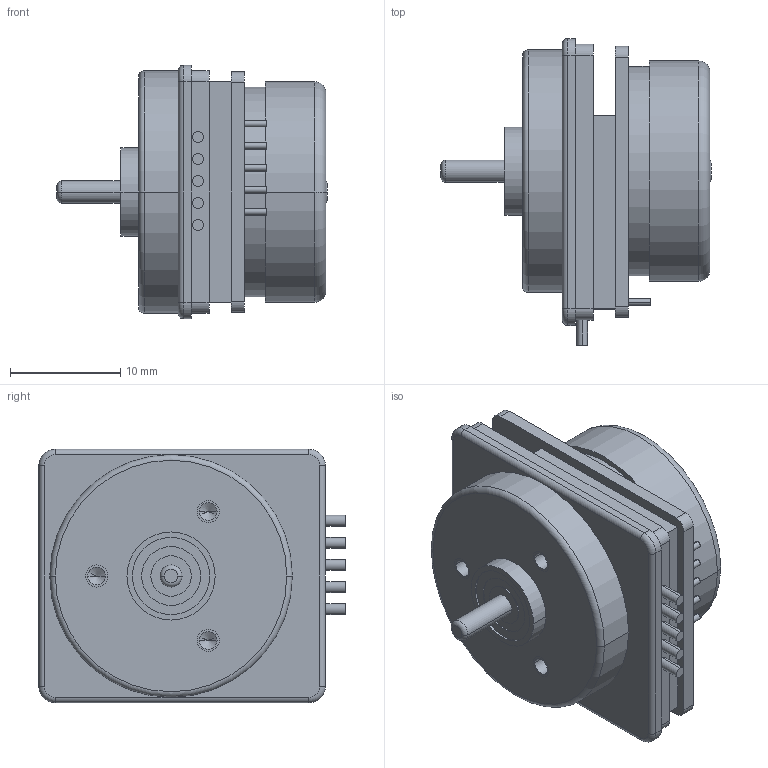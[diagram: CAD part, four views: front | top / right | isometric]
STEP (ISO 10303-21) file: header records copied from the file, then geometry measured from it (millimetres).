
FILE_DESCRIPTION((''),'2;1');
FILE_NAME('1003016','2021-02-03T07:40:48',('mmagvisi'),(''),'CREO PARAMETRIC BY PTC INC, 2020342','CREO PARAMETRIC BY PTC INC, 2020342','');
FILE_SCHEMA(('CONFIG_CONTROL_DESIGN','SHAPE_APPEARANCE_LAYERS_GROUPS'));
Length unit declared in the file: millimetre
Products named in the file (1): 1003016
Bounding box: 24.5 x 27.8 x 23 mm (x, y, z)
Volume: 6626.8 mm3; surface area: 3066.8 mm2
Topology: 1 solids, 4 shells, 126 faces, 284 edges, 181 vertices
Faces by surface type: cylinder 64, plane 44, torus 12, cone 6
Entity records: 3643 total; most frequent: DIRECTION 690, CARTESIAN_POINT 586, ORIENTED_EDGE 544, AXIS2_PLACEMENT_3D 285, EDGE_CURVE 278, VERTEX_POINT 181, CIRCLE 158, EDGE_LOOP 153
